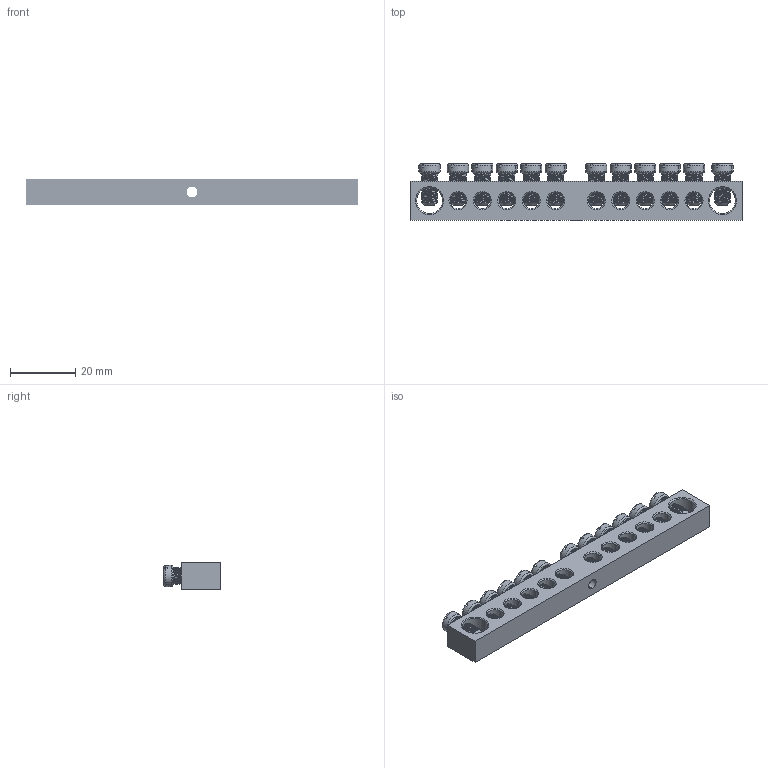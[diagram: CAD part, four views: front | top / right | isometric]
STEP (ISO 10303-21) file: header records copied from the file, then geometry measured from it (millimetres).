
FILE_DESCRIPTION (( 'STEP AP214' ), '1' );
FILE_NAME ('Øèíà íóëåâàÿ ñ êðåïåæíûì îòâåðñòèåì ïî öåíòðó 8õ12 12-1.STEP', '2020-02-07T06:05:31', ( '' ), ( '' ), 'SwSTEP 2.0', 'SolidWorks 2018', '' );
FILE_SCHEMA (( 'AUTOMOTIVE_DESIGN' ));
Length unit declared in the file: millimetre
Products named in the file (3): Âèíò ì5; Øèíà 8õ12 12 1; Øèíà íóëåâàÿ ñ êðåïåæíûì îòâåðñòèåì ïî öåíòðó 8õ12 12-1
Assembly tree (13 placements, depth 2):
  Øèíà íóëåâàÿ ñ êðåïåæíûì îòâåðñòèåì ïî öåíòðó 8õ12 12-1
    Øèíà 8õ12 12 1
    Âèíò ì5  x12
Bounding box: 102 x 17.3 x 8 mm (x, y, z)
Volume: 9808.9 mm3; surface area: 9592 mm2
Topology: 13 solids, 13 shells, 1004 faces, 2778 edges, 1788 vertices
Faces by surface type: cylinder 386, plane 330, cone 168, torus 84, bspline 36
Entity records: 8519 total; most frequent: CARTESIAN_POINT 3731, ORIENTED_EDGE 932, DIRECTION 895, EDGE_CURVE 466, AXIS2_PLACEMENT_3D 353, VERTEX_POINT 292, EDGE_LOOP 230, LINE 189
